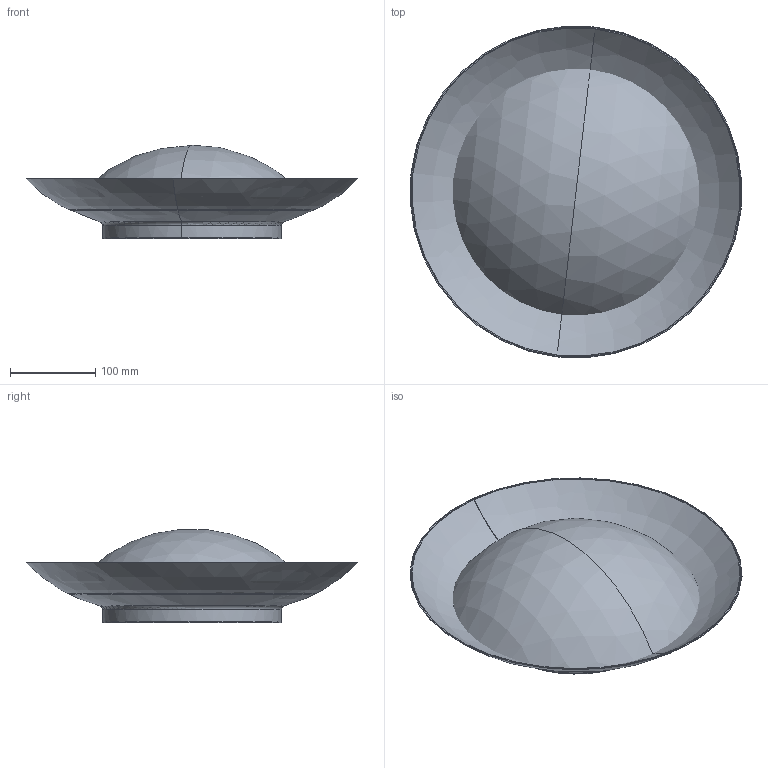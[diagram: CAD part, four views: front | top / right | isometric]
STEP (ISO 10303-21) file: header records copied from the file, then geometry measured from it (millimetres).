
FILE_DESCRIPTION(/* description */ (''),/* implementation_level */ '2;1');
FILE_NAME(/* name */ 'C:\Users\francosartori\Documents\Modelos\01_Digitalizados\0_SIDE\03_Publicación\62140.stp',/* time_stamp */ '2020-06-18T15:30:12+02:00',/* author */ ('FrancoSartori'),/* organization */ (''),/* preprocessor_version */ 'ST-DEVELOPER v18.1',/* originating_system */ 'AutoCAD Mechanical',/* authorisation */ '');
FILE_SCHEMA (('AUTOMOTIVE_DESIGN { 1 0 10303 214 3 1 1 }'));
Length unit declared in the file: millimetre
Products named in the file (2): Product; 62140_62141_62142_62143_lamp - SIDE Lamp-469798-_3D_
Assembly tree (1 placements, depth 2):
  Product
    62140_62141_62142_62143_lamp - SIDE Lamp-469798-_3D_
Bounding box: 389.32 x 389.32 x 109.47 mm (x, y, z)
Volume: 419344.8 mm3; surface area: 599620.5 mm2
Topology: 3 solids, 3 shells, 32 faces, 56 edges, 28 vertices
Faces by surface type: plane 10, bspline 8, sphere 4, cylinder 4, torus 4, cone 2
Entity records: 1539 total; most frequent: CARTESIAN_POINT 922, DIRECTION 124, ORIENTED_EDGE 112, EDGE_CURVE 56, AXIS2_PLACEMENT_3D 55, FACE_OUTER_BOUND 32, EDGE_LOOP 32, ADVANCED_FACE 32
